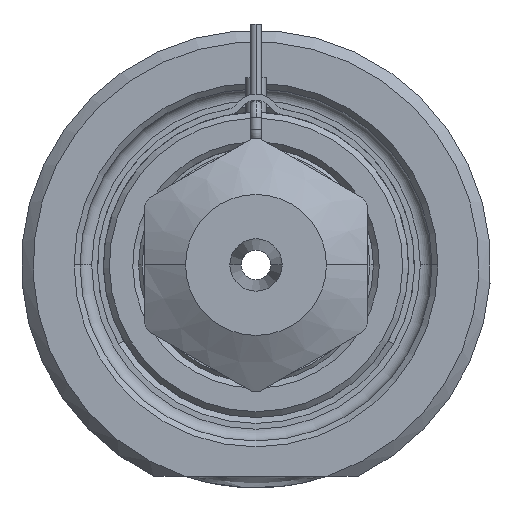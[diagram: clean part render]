
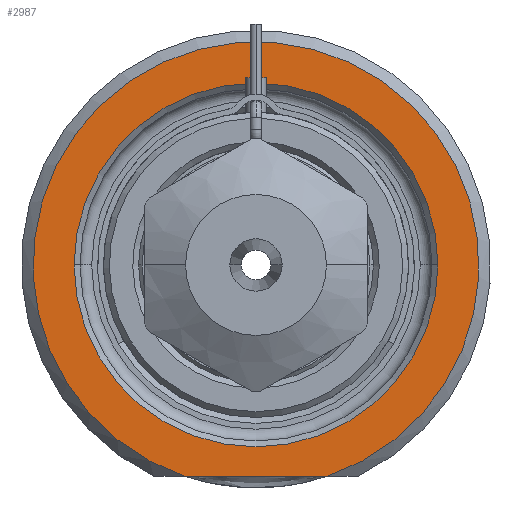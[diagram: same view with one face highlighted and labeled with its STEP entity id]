
A CAD part, front view. The second image highlights one B-rep face of the part: STEP entity #2987.
In plain terms, the highlighted planar face has unit normal (0, -1, 0).
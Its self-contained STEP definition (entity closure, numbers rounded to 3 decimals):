
#1=DIRECTION('',(1.,0.,0.));
#2=VECTOR('',#1,12.166);
#3=CARTESIAN_POINT('',(-6.083,0.,-18.));
#4=LINE('',#3,#2);
#5=CARTESIAN_POINT('',(0.,0.,0.));
#6=DIRECTION('',(0.,1.,0.));
#7=DIRECTION('',(-1.,0.,0.));
#8=AXIS2_PLACEMENT_3D('',#5,#6,#7);
#10=CARTESIAN_POINT('',(0.,0.,0.));
#11=DIRECTION('',(0.,1.,0.));
#12=DIRECTION('',(1.,0.,0.));
#13=AXIS2_PLACEMENT_3D('',#10,#11,#12);
#264=CARTESIAN_POINT('',(0.,0.,0.));
#265=DIRECTION('',(0.,-1.,0.));
#266=DIRECTION('',(0.32,0.,-0.947));
#267=AXIS2_PLACEMENT_3D('',#264,#265,#266);
#2514=CARTESIAN_POINT('',(-15.5,0.,0.));
#2515=CARTESIAN_POINT('',(15.5,0.,0.));
#2516=VERTEX_POINT('',#2514);
#2517=VERTEX_POINT('',#2515);
#2572=CARTESIAN_POINT('',(-6.083,0.,-18.));
#2573=CARTESIAN_POINT('',(6.083,0.,-18.));
#2574=VERTEX_POINT('',#2572);
#2575=VERTEX_POINT('',#2573);
#2970=CARTESIAN_POINT('',(0.,0.,0.));
#2971=DIRECTION('',(0.,-1.,0.));
#2972=DIRECTION('',(1.,0.,0.));
#2973=AXIS2_PLACEMENT_3D('',#2970,#2971,#2972);
#2974=PLANE('',#2973);
#2976=ORIENTED_EDGE('',*,*,#2975,.F.);
#2978=ORIENTED_EDGE('',*,*,#2977,.F.);
#2979=EDGE_LOOP('',(#2976,#2978));
#2980=FACE_OUTER_BOUND('',#2979,.F.);
#2982=ORIENTED_EDGE('',*,*,#2981,.F.);
#2984=ORIENTED_EDGE('',*,*,#2983,.F.);
#2985=EDGE_LOOP('',(#2982,#2984));
#2986=FACE_BOUND('',#2985,.F.);
#2987=ADVANCED_FACE('',(#2980,#2986),#2974,.T.);
#9=CIRCLE('',#8,15.5);
#14=CIRCLE('',#13,15.5);
#268=CIRCLE('',#267,19.);
#2975=EDGE_CURVE('',#2574,#2575,#4,.T.);
#2977=EDGE_CURVE('',#2575,#2574,#268,.T.);
#2981=EDGE_CURVE('',#2516,#2517,#9,.T.);
#2983=EDGE_CURVE('',#2517,#2516,#14,.T.);
